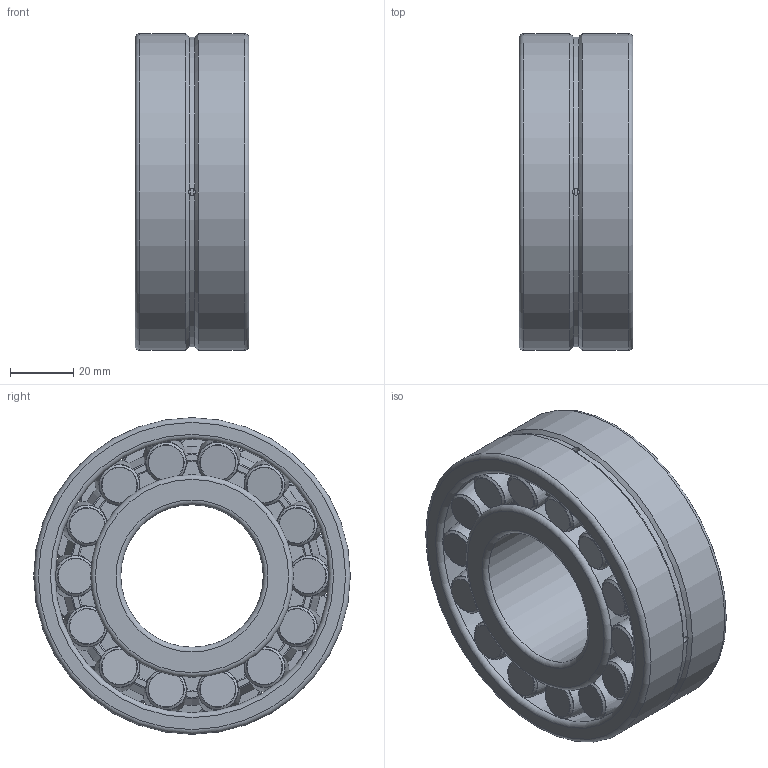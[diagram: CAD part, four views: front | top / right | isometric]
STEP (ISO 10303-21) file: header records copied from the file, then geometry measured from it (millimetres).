
FILE_DESCRIPTION(/* description */ (''),/* implementation_level */ '2;1');
FILE_NAME(/* name */ 'C:\Users\OUREHANEKD\Desktop\Ložiská\MODELY\DRSL\Klietka MB\223\223--\22309W33MB.stp',/* time_stamp */ '2016-09-19T11:21:00+02:00',/* author */ ('OUREHANEKD'),/* organization */ (''),/* preprocessor_version */ 'ST-DEVELOPER v15.6',/* originating_system */ 'Autodesk Inventor 2015',/* authorisation */ '');
FILE_SCHEMA (('AUTOMOTIVE_DESIGN { 1 0 10303 214 3 1 1 }'));
Length unit declared in the file: millimetre
Products named in the file (6): 22309W33MB-01; 22309W33MB-02; 22309W33MB-kl; 22309W33MB-roller2; 22309W33MB-roller1; 22309W33MB
Assembly tree (31 placements, depth 2):
  22309W33MB
    22309W33MB-01
    22309W33MB-02
    22309W33MB-kl
    22309W33MB-roller2  x14
    22309W33MB-roller1  x14
Bounding box: 36 x 100 x 100 mm (x, y, z)
Volume: 180292.4 mm3; surface area: 81111.8 mm2
Topology: 32 solids, 32 shells, 301 faces, 528 edges, 289 vertices
Faces by surface type: torus 129, plane 66, cone 62, bspline 29, cylinder 15
Full cylindrical faces by diameter (mm): 2.16 x3, 45 x1, 63 x2, 72.36 x2, 81.72 x2, 100 x2
Entity records: 2236 total; most frequent: CARTESIAN_POINT 721, DIRECTION 334, ORIENTED_EDGE 172, AXIS2_PLACEMENT_3D 167, EDGE_LOOP 126, EDGE_CURVE 86, VERTEX_POINT 76, FACE_OUTER_BOUND 67
